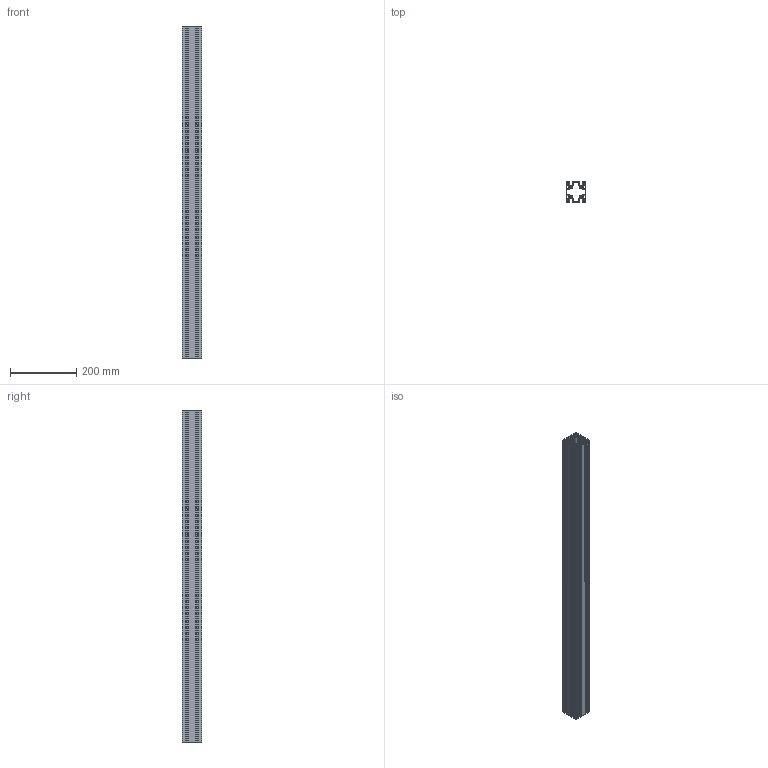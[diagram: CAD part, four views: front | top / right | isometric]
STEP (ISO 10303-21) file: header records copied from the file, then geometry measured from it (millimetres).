
FILE_DESCRIPTION((''),'2;1');
FILE_NAME('\\Dtp_2\share\iriguchi2\M6フレーム\AFS-6060L-6.stp','2014-12-01T09:57:16',('AMS8'),(''),'Autodesk Inventor 2008','Autodesk Inventor 2008','');
FILE_SCHEMA(('AUTOMOTIVE_DESIGN { 1 0 10303 214 1 1 1 1 }'));
Length unit declared in the file: millimetre
Products named in the file (1): Part8
Bounding box: 60 x 60 x 1000 mm (x, y, z)
Volume: 892283.1 mm3; surface area: 830118.6 mm2
Topology: 1 solids, 1 shells, 414 faces, 1236 edges, 824 vertices
Faces by surface type: cylinder 228, plane 186
Full cylindrical faces by diameter (mm): 5 x4
Entity records: 14118 total; most frequent: DIRECTION 2518, CARTESIAN_POINT 2471, ORIENTED_EDGE 2464, EDGE_CURVE 1232, AXIS2_PLACEMENT_3D 871, VERTEX_POINT 824, VECTOR 776, LINE 776
